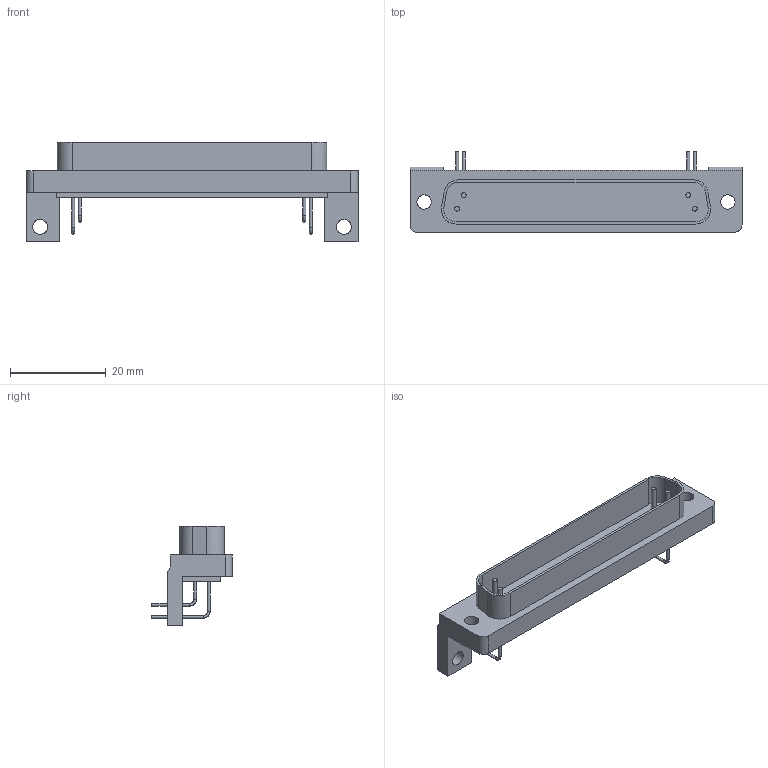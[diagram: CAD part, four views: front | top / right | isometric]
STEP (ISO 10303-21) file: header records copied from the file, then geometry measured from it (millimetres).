
FILE_DESCRIPTION((''),'2;1');
FILE_NAME('/users1/sdrc2/0966_Dsub-S_male_angled_37-pins_2_54.stp', '2005-08-22T11:45:30',('User'),('SDRC'),'I-DEAS Master Series 9','UNIX', 'Yes');
FILE_SCHEMA(('AUTOMOTIVE_DESIGN { 1 0 10303 214 1 1 1 1 }'));
Length unit declared in the file: millimetre
Products named in the file (1): 09 66 422 780x
Bounding box: 69.4 x 16.8 x 20.8 mm (x, y, z)
Volume: 5067.9 mm3; surface area: 4924.8 mm2
Topology: 1 solids, 1 shells, 70 faces, 168 edges, 110 vertices
Faces by surface type: bspline 70
Entity records: 2293 total; most frequent: CARTESIAN_POINT 1171, ORIENTED_EDGE 336, EDGE_CURVE 168, VERTEX_POINT 110, EDGE_LOOP 88, FACE_OUTER_BOUND 70, ADVANCED_FACE 70, OVER_RIDING_STYLED_ITEM 64
